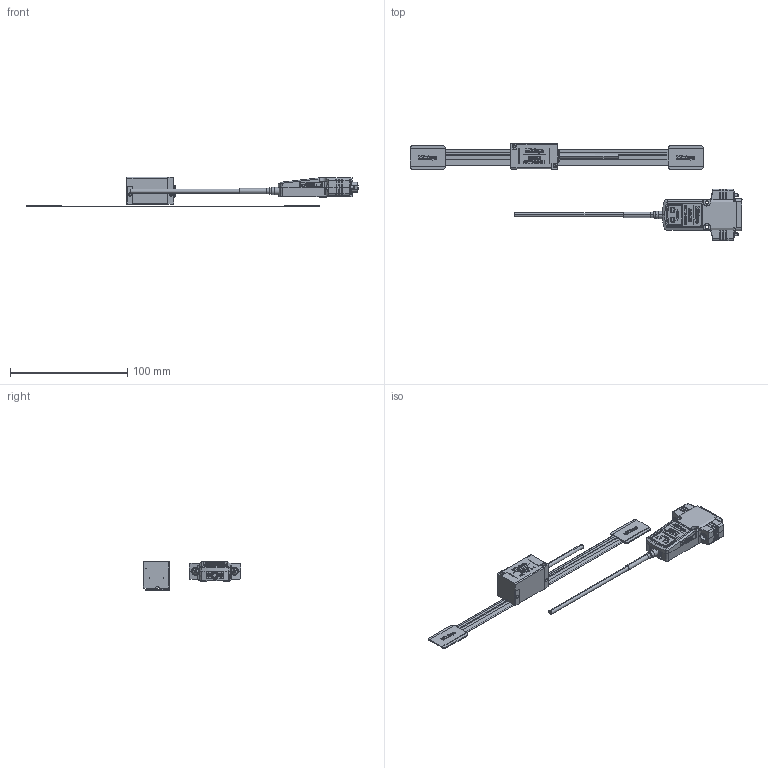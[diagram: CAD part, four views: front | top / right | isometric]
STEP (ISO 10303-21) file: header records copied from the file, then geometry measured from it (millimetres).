
FILE_DESCRIPTION(('Creo Elements/Direct Modeling STEP Export'),'2;1');
FILE_NAME('ST1300-150E.stp','2018-02-27T10:14:24',(''),(''),'Creo Elements/Direct Modeling STEP processor for AP214 (Solid Model)','Creo Elements/Direct Modeling 18.1B 29-Sep-2012 (C) Parametric Technology GmbH','');
FILE_SCHEMA(('AUTOMOTIVE_DESIGN { 1 0 10303 214 1 1 1 1 }'));
Products named in the file (4): Connector; DetectorHead; Scale_150; ST1300-150E
Assembly tree (3 placements, depth 2):
  ST1300-150E
    Scale_150
    DetectorHead
    Connector
Bounding box: 283.1 x 83 x 25.45 mm (x, y, z)
Volume: 22336 mm3; surface area: 24476.2 mm2
Topology: 2 solids, 6 shells, 3203 faces, 8994 edges, 5961 vertices
Faces by surface type: plane 1571, cylinder 1460, cone 83, extrusion 36, torus 26, bspline 23, revolution 4
Entity records: 108676 total; most frequent: CARTESIAN_POINT 24043, ORIENTED_EDGE 17972, DIRECTION 17522, EDGE_CURVE 8982, AXIS2_PLACEMENT_3D 5964, VERTEX_POINT 5961, VECTOR 5588, LINE 5572
